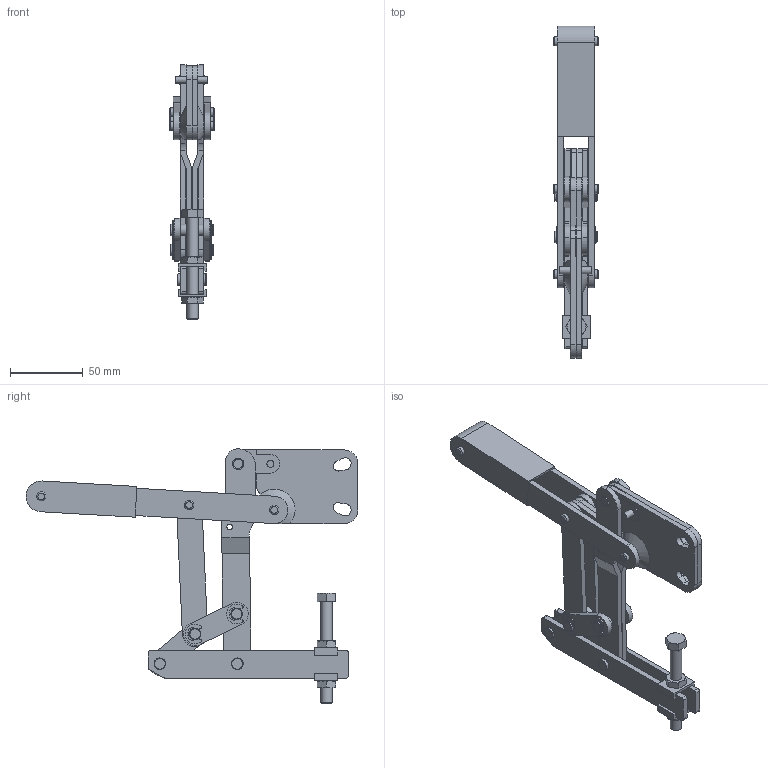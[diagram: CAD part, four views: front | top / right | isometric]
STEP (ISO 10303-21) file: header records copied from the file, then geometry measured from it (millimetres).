
FILE_DESCRIPTION((' '),'2;1');
FILE_NAME('C:\Users\Nick\Desktop\DTS-400\3D\DTS-400.stp','2015-07-15T16:41:52',(' '),(' '),' ','ACIS',' ');
FILE_SCHEMA(('CONFIG_CONTROL_DESIGN'));
Length unit declared in the file: inch
Products named in the file (20): C:\Users\Nick\Desktop\DTS-400\3D\DTS-400.stp; 130008; 150009; 150034; 150036; W-470005; 171010; 4; 16 - 18; 110018-L; 110018-R; 100028; 130018; 150007; 150052; 160004; 102013;  Part 2 - Inch 252PS; 121007-L; 121007-R
Assembly tree (37 placements, depth 3):
  C:\Users\Nick\Desktop\DTS-400\3D\DTS-400.stp
    130008  x6
    150009
    150034  x2
    150036  x3
    W-470005
      171010  x2
      4
      16 - 18  x2
    110018-L
    110018-R
    100028  x2
    130018  x2
    150007  x2
    150052  x2
    160004  x2
    102013
     Part 2 - Inch 252PS  x4
    121007-L
    121007-R
Bounding box: 30.94 x 228.55 x 175.12 mm (x, y, z)
Volume: 144491.2 mm3; surface area: 107123.7 mm2
Topology: 36 solids, 36 shells, 526 faces, 1259 edges, 825 vertices
Faces by surface type: plane 252, cylinder 209, cone 47, torus 18
Full cylindrical faces by diameter (mm): 3.962 x2, 4.75 x2, 4.775 x1, 6.248 x6, 6.274 x4, 6.299 x4, 6.35 x4, 6.401 x2, 6.452 x6, 7.823 x5, 7.849 x6, 7.925 x4, 7.938 x3, 7.95 x4, 7.976 x4, 8.001 x2, 8.012 x2, 8.026 x12, 8.331 x2
Entity records: 12326 total; most frequent: CARTESIAN_POINT 1643, DIRECTION 1642, ORIENTED_EDGE 1370, EDGE_CURVE 685, AXIS2_PLACEMENT_3D 640, VERTEX_POINT 485, EDGE_LOOP 442, VECTOR 362
